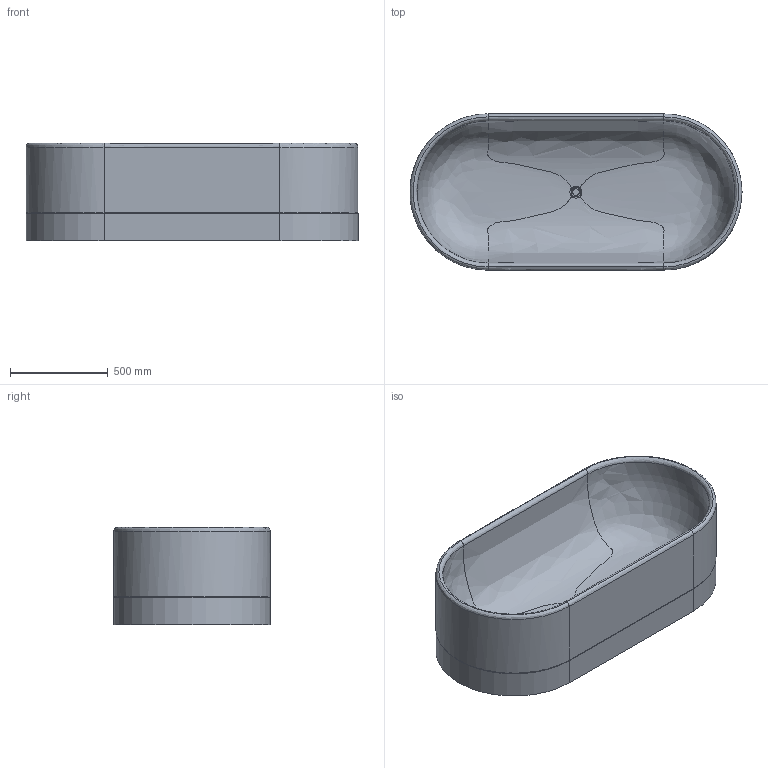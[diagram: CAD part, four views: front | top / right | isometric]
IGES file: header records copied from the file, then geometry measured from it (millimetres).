
Start section: Data from Parasolid IGES Translator 22.0.50, Copyright(c) 2006 Siemens P LM Software. All Rights Reserved.
Global section: file name: noorth-bathtub-H 50 D 80 W 170_5671.igs; native system: By Siemens PLM Incorporated; preprocessor: XPlus GENERIC/IGES 22.0.50; author: Noname; organization: Noname; date: 20250706.170012; units: metre
Bounding box: 1700.93 x 800.33 x 500 mm (x, y, z)
Volume: 216100940.9 mm3; surface area: 7089514.5 mm2
Topology: 2 solids, 2 shells, 43 faces, 101 edges, 66 vertices
Faces by surface type: plane 18, cylinder 13, bspline 12
Full cylindrical faces by diameter (mm): 34 x1, 50 x1, 62 x1
